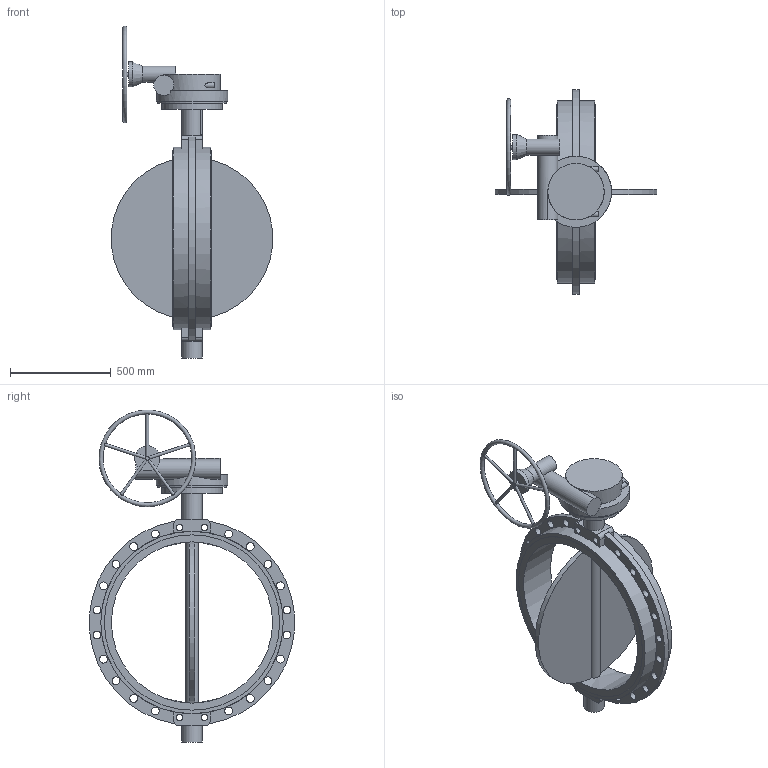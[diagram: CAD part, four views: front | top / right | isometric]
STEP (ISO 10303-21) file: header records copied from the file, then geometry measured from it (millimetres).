
FILE_DESCRIPTION(('STEP AP203'), '1');
FILE_NAME('青蜮铕 017WDN800 疱潴牝铕', '', ('UNSPECIFIED'), ('UNSPECIFIED'), 'ASCON STEP Converter 1.6', 'ASCON Math Kernel', '');
FILE_SCHEMA(('CONFIG_CONTROL_DESIGN'));
Length unit declared in the file: millimetre
Bounding box: 799.96 x 1016.53 x 1647.46 mm (x, y, z)
Volume: 65232113.2 mm3; surface area: 3546024.7 mm2
Topology: 1 solids, 1 shells, 775 faces, 2186 edges, 1454 vertices
Faces by surface type: cylinder 574, plane 199, cone 1, torus 1
Full cylindrical faces by diameter (mm): 14 x13, 18 x8, 20 x2, 25 x2, 31.67 x4, 39 x20, 80 x1, 100 x3, 125 x1, 280 x1, 300 x1, 340 x1, 353 x1, 800 x1, 870 x2, 905 x2
Entity records: 34562 total; most frequent: CARTESIAN_POINT 7362, DIRECTION 4779, ORIENTED_EDGE 4234, EDGE_CURVE 2117, AXIS2_PLACEMENT_3D 1929, VERTEX_POINT 1452, CIRCLE 1154, EDGE_LOOP 941
